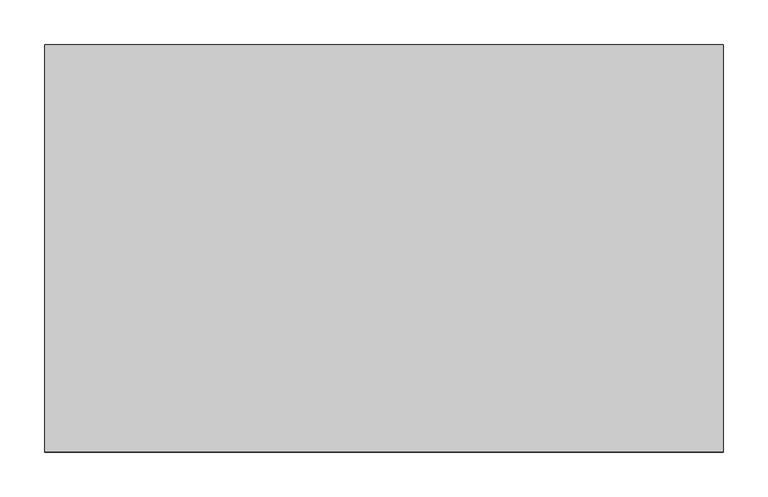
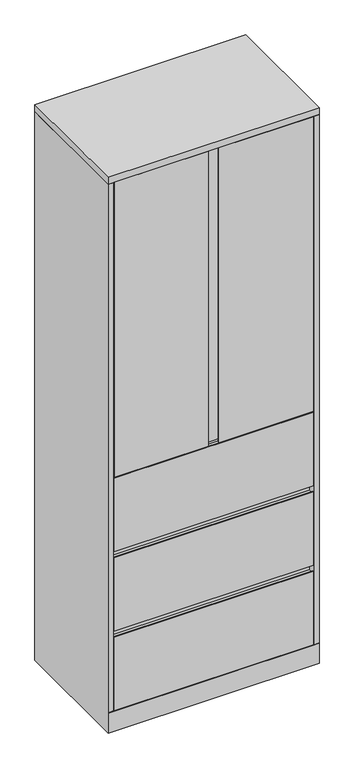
"""IFC4 building model written with IfcOpenShell, lengths in millimetres: furniture geometry, Steelcase - Universal Storage - Cabinet - Combination - Flush Steel : 83 1/2H - 3 Drawers - 18D x 30W."""

import ifcopenshell
import ifcopenshell.guid

model = None  # the IFC model being written
_history = None  # IfcOwnerHistory: only IFC2X3 demands one
_inside = {}  # id of a spatial element -> (the spatial element, [elements in it])
_under = {}  # id of a project, library or spatial element -> (it, [spatial elements below it])
_declared = {}  # id of a project -> (the project, [libraries it declares])
_typed = {}  # id of a type object -> (the type object, [elements of that type])
_made_of = {}  # id of a material, layer set ... -> (it, [elements and type objects made of it])


def new_model(schema):
    """Start an empty IFC model of exactly this schema.

    Asked for "IFC4X3", IfcOpenShell would pick the latest addendum, in which some entities
    have other attributes; the version numbers below select the first issue.
    IFC2X3 requires an IfcOwnerHistory on every rooted entity: one is made here for all.
    """
    global model, _history
    if schema == "IFC4X3":
        model = ifcopenshell.file(schema_version=(4, 3, 0, 0))
    else:
        model = ifcopenshell.file(schema=schema)
    _inside.clear()
    _under.clear()
    _declared.clear()
    _typed.clear()
    _made_of.clear()
    _history = None
    if model.schema == "IFC2X3":
        org = make("IfcOrganization", Name="unknown")
        user = make(
            "IfcPersonAndOrganization",
            ThePerson=make("IfcPerson", FamilyName="unknown"),
            TheOrganization=org,
        )
        app = make(
            "IfcApplication",
            ApplicationDeveloper=org,
            Version="unknown",
            ApplicationFullName="unknown",
            ApplicationIdentifier="unknown",
        )
        _history = make(
            "IfcOwnerHistory",
            OwningUser=user,
            OwningApplication=app,
            ChangeAction="ADDED",
            CreationDate=0,
        )
    return model


def make(cls, **values):
    """One entity of the class cls with the attributes given. An attribute that is None is left unset."""
    return model.create_entity(
        cls, **{name: value for name, value in values.items() if value is not None}
    )


def rooted(cls, **values):
    """An entity with a GlobalId (a new one), such as an element, a storey or a relation."""
    return make(cls, GlobalId=ifcopenshell.guid.new(), OwnerHistory=_history, **values)


def si_unit(unit_type, name, prefix=None):
    """IfcSIUnit, for example si_unit("LENGTHUNIT", "METRE", prefix="MILLI")."""
    return make("IfcSIUnit", UnitType=unit_type, Prefix=prefix, Name=name)


def assignment(units):
    """IfcUnitAssignment: the units of a project."""
    return None if units is None else make("IfcUnitAssignment", Units=units)


def point(xyz):
    """IfcCartesianPoint."""
    return None if xyz is None else make("IfcCartesianPoint", Coordinates=xyz)


def direction(xyz):
    """IfcDirection."""
    return None if xyz is None else make("IfcDirection", DirectionRatios=xyz)


def frame(location, z_axis=None, x_axis=None):
    """IfcAxis2Placement3D, a coordinate frame: its origin and axes. An axis left out is left unset."""
    return make(
        "IfcAxis2Placement3D",
        Location=point(location),
        Axis=direction(z_axis),
        RefDirection=direction(x_axis),
    )


def origin():
    """The frame at (0, 0, 0) with its axes left unset."""
    return frame((0.0, 0.0, 0.0))


def place(relative_to, where):
    """IfcLocalPlacement: puts the frame where relative to a parent placement (None: the world)."""
    return make(
        "IfcLocalPlacement", PlacementRelTo=relative_to, RelativePlacement=where
    )


def context(
    kind, dimensions, precision=None, world=None, true_north=None, identifier=None
):
    """IfcGeometricRepresentationContext, for example the 3D "Model" context."""
    return make(
        "IfcGeometricRepresentationContext",
        ContextIdentifier=identifier,
        ContextType=kind,
        CoordinateSpaceDimension=dimensions,
        Precision=precision,
        WorldCoordinateSystem=world,
        TrueNorth=true_north,
    )


def project(units=None, contexts=None):
    """IfcProject with its units and contexts."""
    return rooted(
        "IfcProject",
        Name="project",
        RepresentationContexts=contexts,
        UnitsInContext=assignment(units),
    )


def spatial(cls, under=None, at=None, **own):
    """A site, building, storey or space (cls), placed at a placement, below another one or the project."""
    s = rooted(cls, ObjectPlacement=at, **own)
    if under is not None:
        _under.setdefault(under.id(), (under, []))[1].append(s)
    return s


def polyline(points):
    """IfcPolyline through the points."""
    return make("IfcPolyline", Points=[point(p) for p in points])


def outline(outer, holes=None, kind="AREA"):
    """IfcArbitraryClosedProfileDef: a profile drawn as a closed curve; with holes, ...WithVoids."""
    if holes is None:
        return make("IfcArbitraryClosedProfileDef", ProfileType=kind, OuterCurve=outer)
    return make(
        "IfcArbitraryProfileDefWithVoids",
        ProfileType=kind,
        OuterCurve=outer,
        InnerCurves=holes,
    )


def extrude(swept, where, along, depth):
    """IfcExtrudedAreaSolid: the profile swept, set in the frame where, extruded along a direction by depth."""
    return make(
        "IfcExtrudedAreaSolid",
        SweptArea=swept,
        Position=where,
        ExtrudedDirection=direction(along),
        Depth=depth,
    )


def faces_of(points, faces, orient=None, outer=None):
    """IfcFace entities. A face is a list of loops; a loop is a list of indices into points, from 0.

    orient and outer hold one flag for each loop. By default every Orientation is true, the
    first loop of a face is its IfcFaceOuterBound and the others are IfcFaceBound.
    """
    made = []
    for i, loops in enumerate(faces):
        bounds = []
        for j, loop in enumerate(loops):
            is_outer = j == 0 if outer is None else outer[i][j]
            bounds.append(
                make(
                    "IfcFaceOuterBound" if is_outer else "IfcFaceBound",
                    Bound=make("IfcPolyLoop", Polygon=[points[k] for k in loop]),
                    Orientation=True if orient is None else orient[i][j],
                )
            )
        made.append(make("IfcFace", Bounds=bounds))
    return made


def faceted_brep(points, faces, orient=None, outer=None, voids=None):
    """IfcFacetedBrep: a solid bounded by flat faces; with voids (closed shells), ...WithVoids."""
    shared = [point(p) for p in points]
    hull = make("IfcClosedShell", CfsFaces=faces_of(shared, faces, orient, outer))
    if voids is None:
        return make("IfcFacetedBrep", Outer=hull)
    return make(
        "IfcFacetedBrepWithVoids",
        Outer=hull,
        Voids=[
            make(cls, CfsFaces=faces_of(shared, fs, o, b)) for cls, fs, o, b in voids
        ],
    )


def shape(context_of_items, identifier, shape_type, items):
    """IfcShapeRepresentation: the items that make up one representation, for example the "Body"."""
    return make(
        "IfcShapeRepresentation",
        ContextOfItems=context_of_items,
        RepresentationIdentifier=identifier,
        RepresentationType=shape_type,
        Items=items,
    )


def source(mapping_origin, context_of_items, identifier, shape_type, items):
    """IfcRepresentationMap: a shape defined once, which mapped items show again and again."""
    return make(
        "IfcRepresentationMap",
        MappingOrigin=mapping_origin,
        MappedRepresentation=shape(context_of_items, identifier, shape_type, items),
    )


def transform(
    local_origin,
    x_axis=None,
    y_axis=None,
    z_axis=None,
    scale=None,
    scale2=None,
    scale3=None,
    uniform=True,
):
    """IfcCartesianTransformationOperator3D, or its non-uniform kind. x_axis, y_axis, z_axis: its Axis1, 2, 3."""
    if uniform:
        return make(
            "IfcCartesianTransformationOperator3D",
            Axis1=direction(x_axis),
            Axis2=direction(y_axis),
            LocalOrigin=point(local_origin),
            Scale=scale,
            Axis3=direction(z_axis),
        )
    return make(
        "IfcCartesianTransformationOperator3DnonUniform",
        Axis1=direction(x_axis),
        Axis2=direction(y_axis),
        LocalOrigin=point(local_origin),
        Scale=scale,
        Axis3=direction(z_axis),
        Scale2=scale2,
        Scale3=scale3,
    )


def mapped(mapping_source, mapping_target):
    """IfcMappedItem: shows the shape of a source again, moved by a transform."""
    return make(
        "IfcMappedItem", MappingSource=mapping_source, MappingTarget=mapping_target
    )


def made_of(thing, what):
    """Note that an element or type object is made of a material, layer set ...; save() writes the relation."""
    if what is not None:
        _made_of.setdefault(what.id(), (what, []))[1].append(thing)
    return thing


def element(
    cls,
    number,
    at=None,
    inside=None,
    cuts=None,
    type_object=None,
    material=None,
    context=None,
    identifier="Body",
    shape_type=None,
    held_by="IfcProductDefinitionShape",
    body=None,
    shapes=None,
    **own,
):
    """One element of the class cls, such as IfcWall. Its Tag is "e" and its number.

    at: its placement. inside: the storey or other place that contains it. cuts: it is an
    opening in that element (IfcRelVoidsElement). A single representation is given by context,
    identifier, shape_type and body (its items); several are given by shapes. held_by: the class
    of the entity that holds the representations. save() writes the other relations.
    """
    e = rooted(cls, Tag="e%d" % number, ObjectPlacement=at, **own)
    if body is not None:
        shapes = [shape(context, identifier, shape_type, body)]
    if shapes is not None:
        e.Representation = make(held_by, Representations=shapes)
    if inside is not None:
        _inside.setdefault(inside.id(), (inside, []))[1].append(e)
    if cuts is not None:
        rooted(
            "IfcRelVoidsElement", RelatingBuildingElement=cuts, RelatedOpeningElement=e
        )
    if type_object is not None:
        _typed.setdefault(type_object.id(), (type_object, []))[1].append(e)
    return made_of(e, material)


def aggregate(whole, parts):
    """IfcRelAggregates: a whole, such as a stair, and the parts it consists of."""
    return rooted("IfcRelAggregates", RelatingObject=whole, RelatedObjects=parts)


def save(model, path):
    """Write the relations noted so far, then the file.

    IfcRelAggregates (storeys below a building ...), IfcRelContainedInSpatialStructure (elements
    in a storey), IfcRelDefinesByType, IfcRelAssociatesMaterial and IfcRelDeclares: one each for
    every whole, place, type object, material and project.
    """
    for whole, parts in _under.values():
        aggregate(whole, parts)
    for where, things in _inside.values():
        rooted(
            "IfcRelContainedInSpatialStructure",
            RelatedElements=things,
            RelatingStructure=where,
        )
    for kind, things in _typed.values():
        rooted("IfcRelDefinesByType", RelatedObjects=things, RelatingType=kind)
    for what, things in _made_of.values():
        rooted("IfcRelAssociatesMaterial", RelatedObjects=things, RelatingMaterial=what)
    for by, libraries in _declared.values():
        rooted("IfcRelDeclares", RelatingContext=by, RelatedDefinitions=libraries)
    model.write(path)


def furniture_9b863a06(model_context):
    return source(origin(), model_context, "Body", "SolidModel", [
        extrude(outline(polyline([(21.8068168, -431.673866), (741.172, -431.673866), (741.172, -457.2), (400.05, -457.2), (400.05, -452.883482), (413.2189152, -452.883482), (413.2189152, -438.0238781), (361.95, -438.0238781), (361.95, -457.2), (21.8068168, -457.2), (21.8068168, -431.673866)])), frame((0.0, 0.0, 968.756), z_axis=(0.0, 0.0, 1.0), x_axis=(1.0, 0.0, 0.0)), (0.0, 0.0, 1.0), 1125.22),
        extrude(outline(polyline([(762.0, 0.0), (762.0, -457.2), (0.0, -457.2), (0.0, 0.0), (762.0, 0.0)])), frame((0.0, 0.0, 2095.4999516), z_axis=(0.0, 0.0, 1.0), x_axis=(1.0, 0.0, 0.0)), (0.0, 0.0, 1.0), 25.4000484),
        extrude(outline(polyline([(736.6000242, -25.4000008), (736.6000242, -430.1498674), (25.4000008, -430.1498674), (25.4000008, -25.4000008), (736.6000242, -25.4000008)])), frame((0.0, 0.0, 1875.1550484), z_axis=(0.0, 0.0, 1.0), x_axis=(1.0, 0.0, 0.0)), (0.0, 0.0, 1.0), 22.2249516),
        extrude(outline(polyline([(736.6000242, -25.4000008), (736.6000242, -430.1498674), (25.4000008, -430.1498674), (25.4000008, -25.4000008), (736.6000242, -25.4000008)])), frame((0.0, 0.0, 1571.8790484), z_axis=(0.0, 0.0, 1.0), x_axis=(1.0, 0.0, 0.0)), (0.0, 0.0, 1.0), 22.2249516),
        extrude(outline(polyline([(-457.2, 358.7750484), (-454.0242491, 358.7750484), (-454.0242491, 349.2500484), (-431.673866, 349.2500484), (-431.673866, 381.0), (-430.1498674, 381.0), (-430.1498674, 349.2500484), (-430.1498674, 77.724), (-457.2, 77.724), (-457.2, 358.7750484)])), frame((20.8280006, 0.0, 0.0), z_axis=(1.0, 0.0, 0.0), x_axis=(0.0, 1.0, 0.0)), (0.0, 0.0, 1.0), 720.3439994),
        extrude(outline(polyline([(736.6000242, -25.4000008), (736.6000242, -430.1498674), (25.4000008, -430.1498674), (25.4000008, -25.4000008), (736.6000242, -25.4000008)])), frame((0.0, 0.0, 358.7750484), z_axis=(0.0, 0.0, 1.0), x_axis=(1.0, 0.0, 0.0)), (0.0, 0.0, 1.0), 22.2249516),
        extrude(outline(polyline([(736.6000242, -25.4000008), (736.6000242, -430.1498674), (25.4000008, -430.1498674), (25.4000008, -25.4000008), (736.6000242, -25.4000008)])), frame((0.0, 0.0, 1268.6030484), z_axis=(0.0, 0.0, 1.0), x_axis=(1.0, 0.0, 0.0)), (0.0, 0.0, 1.0), 22.2249516),
        extrude(outline(polyline([(-457.2, 965.3270484), (-454.0242491, 965.3270484), (-454.0242491, 955.8020484), (-431.673866, 955.8020484), (-431.673866, 987.552), (-430.1498674, 987.552), (-430.1498674, 955.8020484), (-430.1498674, 684.276), (-457.2, 684.276), (-457.2, 965.3270484)])), frame((20.8280006, 0.0, 0.0), z_axis=(1.0, 0.0, 0.0), x_axis=(0.0, 1.0, 0.0)), (0.0, 0.0, 1.0), 720.3439994),
        extrude(outline(polyline([(736.6000242, -25.4000008), (736.6000242, -430.1498674), (25.4000008, -430.1498674), (25.4000008, -25.4000008), (736.6000242, -25.4000008)])), frame((0.0, 0.0, 965.3270484), z_axis=(0.0, 0.0, 1.0), x_axis=(1.0, 0.0, 0.0)), (0.0, 0.0, 1.0), 22.2249516),
        extrude(outline(polyline([(-457.2, 662.0510484), (-454.0242491, 662.0510484), (-454.0242491, 652.5260484), (-431.673866, 652.5260484), (-431.673866, 684.276), (-430.1498674, 684.276), (-430.1498674, 652.5260484), (-430.1498674, 381.0), (-457.2, 381.0), (-457.2, 662.0510484)])), frame((20.8280006, 0.0, 0.0), z_axis=(1.0, 0.0, 0.0), x_axis=(0.0, 1.0, 0.0)), (0.0, 0.0, 1.0), 720.3439994),
        extrude(outline(polyline([(736.6000242, -25.4000008), (736.6000242, -430.1498674), (25.4000008, -430.1498674), (25.4000008, -25.4000008), (736.6000242, -25.4000008)])), frame((0.0, 0.0, 662.0510484), z_axis=(0.0, 0.0, 1.0), x_axis=(1.0, 0.0, 0.0)), (0.0, 0.0, 1.0), 22.2249516),
        faceted_brep([(762.0, 0.0, 0.0), (762.0, -457.2, 0.0), (0.0, -457.2, 0.0), (0.0, 0.0, 0.0), (0.0, 0.0, 2093.976), (762.0, 0.0, 2093.976), (0.0, -457.2, 76.2), (0.0, -457.2, 77.724), (0.0, -457.2, 2093.976), (762.0, -457.2, 76.2), (762.0, -457.2, 2093.976), (762.0, -457.2, 77.724), (736.6000242, -25.4000008, 2093.976), (736.6000242, -430.1498674, 2093.976), (741.172, -430.1498674, 2093.976), (741.172, -431.6738781, 2093.976), (742.696, -431.6738781, 2093.976), (742.696, -457.2, 2093.976), (19.304, -457.2, 2093.976), (19.304, -431.673866, 2093.976), (20.8280006, -431.673866, 2093.976), (20.8280006, -430.1498674, 2093.976), (25.4000008, -430.1498674, 2093.976), (25.4000008, -25.4000008, 2093.976), (19.304, -457.2, 77.724), (19.304, -437.896, 77.724), (742.696, -457.2, 77.724), (742.696, -437.7698418, 77.724), (736.6000242, -25.4000008, 77.724), (736.6000242, -430.1498674, 77.724), (741.172, -430.1498674, 77.724), (741.172, -431.6738781, 77.724), (742.696, -431.6738781, 77.724), (19.304, -431.673866, 77.724), (20.8280006, -431.673866, 77.724), (20.8280006, -430.1498674, 77.724), (25.4000008, -430.1498674, 77.724), (25.4000008, -25.4000008, 77.724), (25.526134, -431.673866, 77.724), (736.6000242, -431.673866, 77.724)], [[[0, 1, 2, 3]], [[0, 3, 4, 5]], [[4, 3, 2, 6, 7, 8]], [[2, 1, 9, 6]], [[1, 0, 5, 10, 11, 9]], [[12, 13, 14, 15, 16, 17, 10, 5, 4, 8, 18, 19, 20, 21, 22, 23]], [[24, 7, 25]], [[11, 26, 27]], [[13, 12, 28, 29]], [[14, 13, 29, 30]], [[15, 14, 30, 31]], [[16, 15, 31, 32]], [[17, 16, 32, 27, 26]], [[10, 17, 26, 11]], [[18, 8, 7, 24]], [[19, 18, 24, 25, 33]], [[20, 19, 33, 34]], [[21, 20, 34, 35]], [[22, 21, 35, 36]], [[23, 22, 36, 37]], [[12, 23, 37, 28]], [[38, 39, 27, 32, 31, 30, 29, 28, 37, 36, 35, 34, 33, 25]], [[7, 6, 38, 25]], [[39, 38, 6, 9]], [[39, 9, 11, 27]]]),
    ])


if __name__ == "__main__":
    model = new_model("IFC4")
    model_context = context("Model", 3, world=origin())
    ifc_project = project(units=[si_unit("LENGTHUNIT", "METRE", prefix="MILLI")], contexts=[model_context])
    site = spatial("IfcSite", under=ifc_project)
    building = spatial("IfcBuilding", under=site)
    placement = place(None, origin())
    furniture_shape = furniture_9b863a06(model_context)
    element("IfcFurniture", 1, ObjectType="Steelcase - Universal Storage - Cabinet - Combination - Flush Steel : 83 1/2H - 3 Drawers - 18D x 30W", at=placement, inside=building, context=model_context, shape_type="MappedRepresentation", body=[
        mapped(furniture_shape, transform((0.0, 0.0, 0.0), x_axis=(1.0, 0.0, 0.0), y_axis=(0.0, 1.0, 0.0), z_axis=(0.0, 0.0, 1.0))),
    ])
    save(model, "model.ifc")
